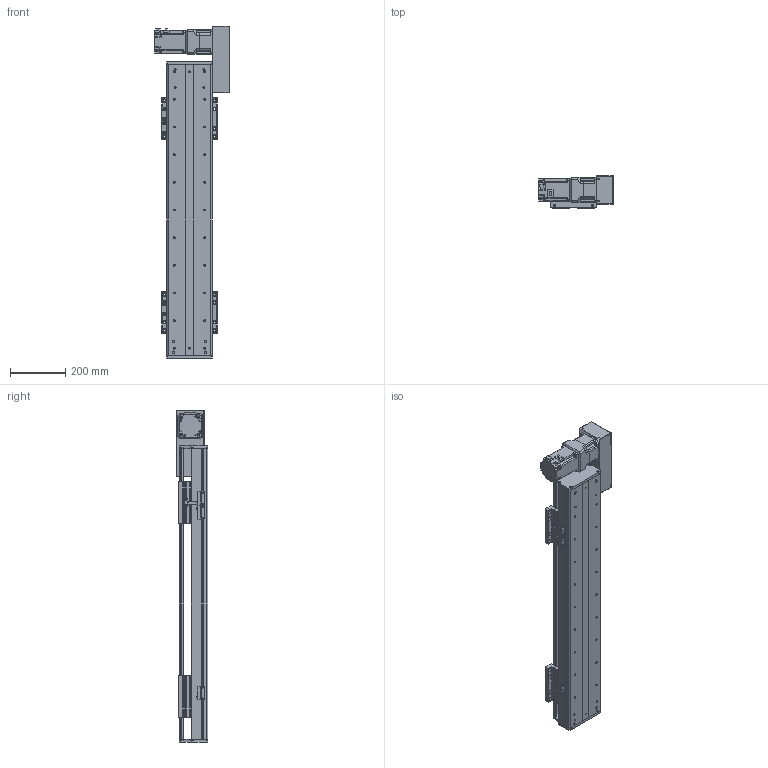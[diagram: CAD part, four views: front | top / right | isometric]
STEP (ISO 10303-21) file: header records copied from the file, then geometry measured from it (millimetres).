
FILE_DESCRIPTION(/* description */ (''),/* implementation_level */ '2;1');
FILE_NAME(/* name */ 'C:\Users\PC\Desktop\3D도면\STEP\DSB165-R7G-W0700-L.stp',/* time_stamp */ '2018-06-25T14:37:41+09:00',/* author */ ('PC'),/* organization */ (''),/* preprocessor_version */ 'ST-DEVELOPER v16.5',/* originating_system */ 'Autodesk Inventor 2017',/* authorisation */ '');
FILE_SCHEMA (('AUTOMOTIVE_DESIGN { 1 0 10303 214 3 1 1 }'));
Length unit declared in the file: millimetre
Products named in the file (12): DSB165-L7G-W0700-R_MIR; DSB165-BASE-L_MIR; hg-kr73__MIR; ab0901-p0401300102_MIR; 11-DSB165 BELT COVER_MIR; 12-DSB165-REAR COVER_MIR; 14-DSB165-FRONT COVER_MIR; DSB165-UP COVER_MIR; DSB165-TABLE(MSB20S)_MIR; DSR165-SENSOR DOG_MIR; pm-y65_step_MIR; SENSOR BRACKET(EE-SX674A)_MIR
Assembly tree (16 placements, depth 2):
  DSB165-L7G-W0700-R_MIR
    DSB165-BASE-L_MIR
    hg-kr73__MIR
    ab0901-p0401300102_MIR
    11-DSB165 BELT COVER_MIR
    12-DSB165-REAR COVER_MIR
    14-DSB165-FRONT COVER_MIR
    DSB165-UP COVER_MIR
    DSB165-TABLE(MSB20S)_MIR  x2
    DSR165-SENSOR DOG_MIR
    pm-y65_step_MIR  x3
    SENSOR BRACKET(EE-SX674A)_MIR  x3
Bounding box: 270 x 115 x 1200 mm (x, y, z)
Volume: 7495708.4 mm3; surface area: 1727465.8 mm2
Topology: 17 solids, 17 shells, 1657 faces, 4454 edges, 2936 vertices
Faces by surface type: plane 921, cylinder 614, cone 110, sphere 8, torus 4
Full cylindrical faces by diameter (mm): 2.459 x20, 3.5 x6, 4.134 x42, 4.5 x18, 5 x27, 5.5 x36, 5.9 x4, 6 x4, 6.6 x14, 6.647 x38, 6.8 x1, 7 x4, 7.6 x4, 8.4 x1, 8.5 x24, 8.7 x1, 9.5 x32, 11 x6, 14 x16, 19 x1, 22 x1, 24 x1, 25 x1, 28 x1, 67 x1, 70 x2, 80 x1
Entity records: 35920 total; most frequent: DIRECTION 6218, CARTESIAN_POINT 6039, ORIENTED_EDGE 5514, EDGE_CURVE 2757, AXIS2_PLACEMENT_3D 2279, VERTEX_POINT 1962, EDGE_LOOP 1711, LINE 1660
